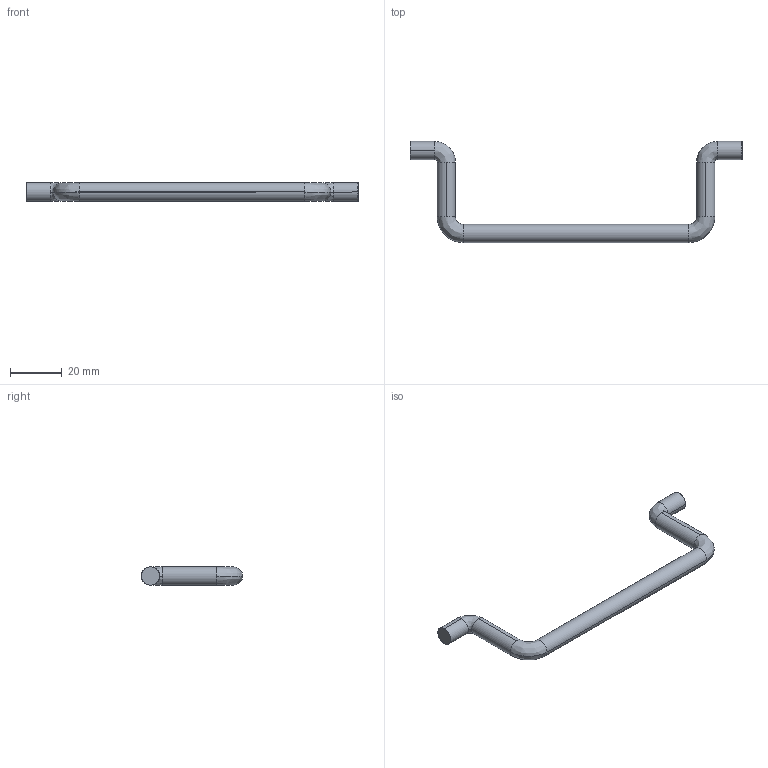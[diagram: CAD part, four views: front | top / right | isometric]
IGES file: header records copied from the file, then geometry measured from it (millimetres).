
Start section: SolidWorks IGES FILE using analytic representation for surfaces
Global section: file name: C:\Documents and Settings\lecoutey\Bureau\POF 310\310.040.00.IGS; native system: SolidWorks 2004 by SolidWorks Corporation; preprocessor: Version 5.3; author: lecoutey; date: 050408.141010; units: millimetre
Bounding box: 128 x 39 x 7 mm (x, y, z)
Surface area: 4091.6 mm2 (no closed solid volume)
Topology: 0 solids, 0 shells, 20 faces, 156 edges, 156 vertices
Faces by surface type: bspline 10, revolution 10
